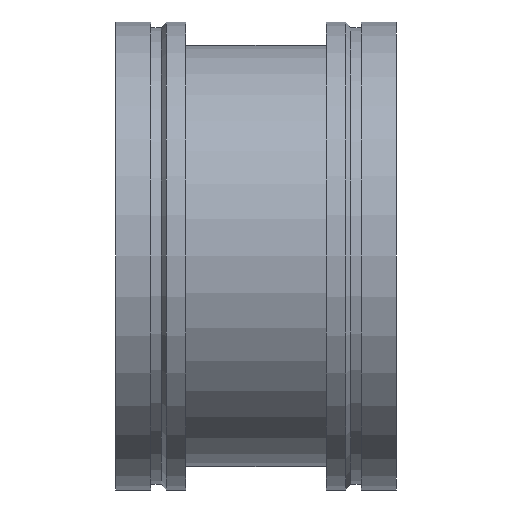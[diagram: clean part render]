
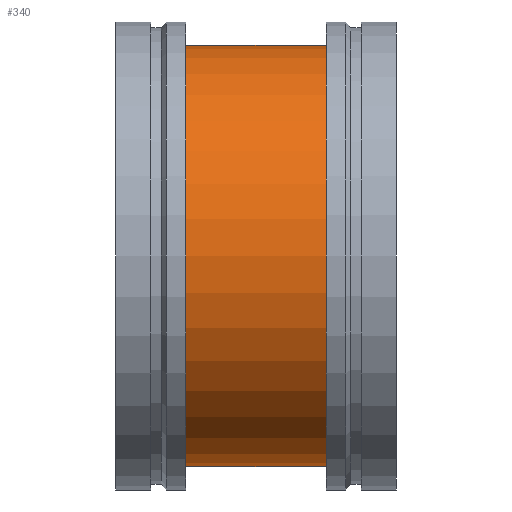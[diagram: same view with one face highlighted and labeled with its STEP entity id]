
A CAD part, front view. The second image highlights one B-rep face of the part: STEP entity #340.
In plain terms, the highlighted cylindrical face has radius 228.6 mm (diameter 457.2 mm), a full revolution.
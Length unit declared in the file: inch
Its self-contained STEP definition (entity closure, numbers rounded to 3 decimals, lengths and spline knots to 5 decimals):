
#51=LINE('',#613,#61);
#61=VECTOR('',#488,9.);
#70=CYLINDRICAL_SURFACE('',#392,9.);
#88=FACE_OUTER_BOUND('',#107,.T.);
#107=EDGE_LOOP('',(#261,#262,#263,#264,#265,#266));
#133=CIRCLE('',#390,9.);
#134=CIRCLE('',#391,9.);
#135=CIRCLE('',#393,9.);
#136=CIRCLE('',#394,9.);
#165=VERTEX_POINT('',#604);
#166=VERTEX_POINT('',#605);
#167=VERTEX_POINT('',#609);
#168=VERTEX_POINT('',#610);
#201=EDGE_CURVE('',#165,#166,#133,.T.);
#202=EDGE_CURVE('',#166,#165,#134,.T.);
#203=EDGE_CURVE('',#167,#168,#135,.T.);
#204=EDGE_CURVE('',#168,#167,#136,.T.);
#205=EDGE_CURVE('',#168,#166,#51,.T.);
#261=ORIENTED_EDGE('',*,*,#203,.F.);
#262=ORIENTED_EDGE('',*,*,#204,.F.);
#263=ORIENTED_EDGE('',*,*,#205,.T.);
#264=ORIENTED_EDGE('',*,*,#202,.T.);
#265=ORIENTED_EDGE('',*,*,#201,.T.);
#266=ORIENTED_EDGE('',*,*,#205,.F.);
#340=ADVANCED_FACE('',(#88),#70,.T.);
#390=AXIS2_PLACEMENT_3D('',#606,#478,#479);
#391=AXIS2_PLACEMENT_3D('',#607,#480,#481);
#392=AXIS2_PLACEMENT_3D('',#608,#482,#483);
#393=AXIS2_PLACEMENT_3D('',#611,#484,#485);
#394=AXIS2_PLACEMENT_3D('',#612,#486,#487);
#478=DIRECTION('center_axis',(1.,0.,0.));
#479=DIRECTION('ref_axis',(0.,0.,-1.));
#480=DIRECTION('center_axis',(1.,0.,0.));
#481=DIRECTION('ref_axis',(0.,0.,-1.));
#482=DIRECTION('center_axis',(1.,0.,0.));
#483=DIRECTION('ref_axis',(0.,1.,0.));
#484=DIRECTION('center_axis',(1.,0.,0.));
#485=DIRECTION('ref_axis',(0.,0.,-1.));
#486=DIRECTION('center_axis',(1.,0.,0.));
#487=DIRECTION('ref_axis',(0.,0.,-1.));
#488=DIRECTION('',(-1.,0.,0.));
#604=CARTESIAN_POINT('',(3.,9.,0.));
#605=CARTESIAN_POINT('',(3.,-9.,0.));
#606=CARTESIAN_POINT('Origin',(3.,0.,0.));
#607=CARTESIAN_POINT('Origin',(3.,0.,0.));
#608=CARTESIAN_POINT('Origin',(6.,0.,0.));
#609=CARTESIAN_POINT('',(9.,9.,0.));
#610=CARTESIAN_POINT('',(9.,-9.,0.));
#611=CARTESIAN_POINT('Origin',(9.,0.,0.));
#612=CARTESIAN_POINT('Origin',(9.,0.,0.));
#613=CARTESIAN_POINT('',(6.,-9.,0.));
